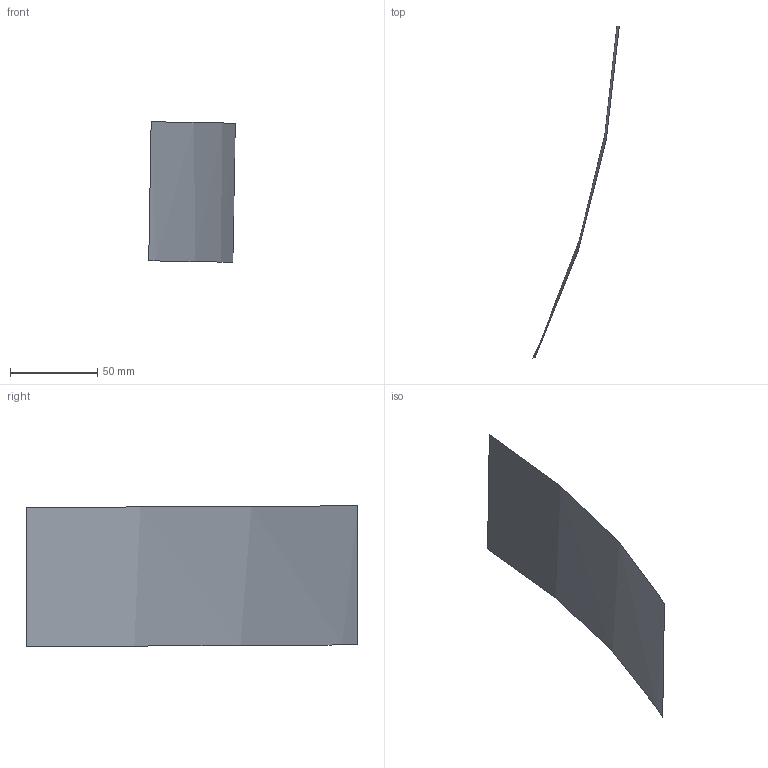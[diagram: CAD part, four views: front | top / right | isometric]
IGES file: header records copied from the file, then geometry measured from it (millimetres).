
Global section: file name: finv2.igs; native system: ANSA9.x; preprocessor: 1.2; author: cai; date: **0103.144123; units: millimetre
Bounding box: 49.62 x 190.26 x 80.6 mm (x, y, z)
Surface area: 15763.9 mm2 (no closed solid volume)
Topology: 0 solids, 0 shells, 1 faces, 10 edges, 11 vertices
Faces by surface type: bspline 1
